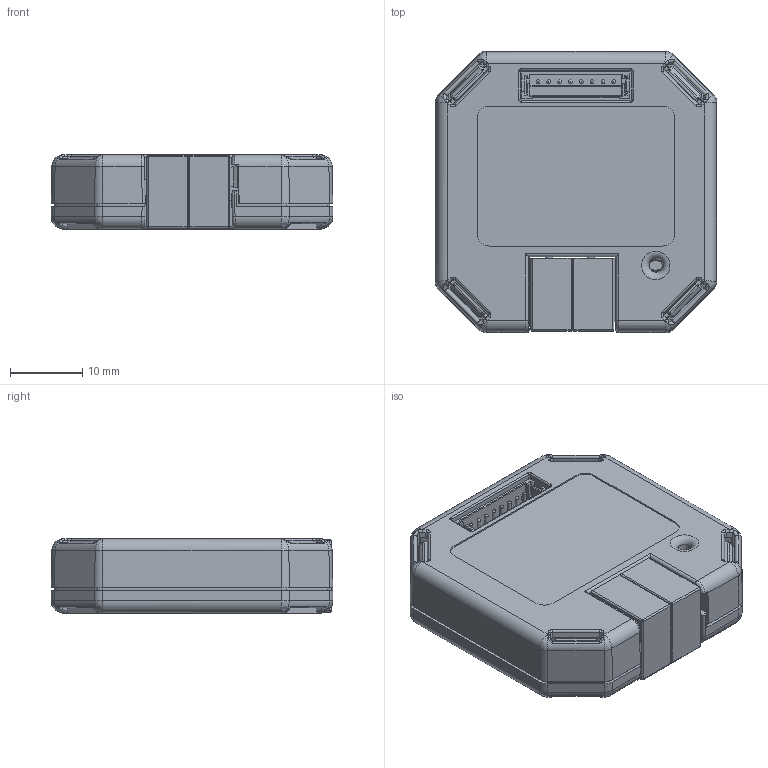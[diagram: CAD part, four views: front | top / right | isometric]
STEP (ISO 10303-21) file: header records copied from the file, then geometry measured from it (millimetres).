
FILE_DESCRIPTION(/* description */ (''),/* implementation_level */ '2;1');
FILE_NAME(/* name */ 'KNX_IO_430_secure.stp',/* time_stamp */ '2025-11-03T08:56:25+01:00',/* author */ (''),/* organization */ (''),/* preprocessor_version */ 'ST-DEVELOPER v17.2',/* originating_system */ 'Autodesk Inventor 2019',/* authorisation */ '');
FILE_SCHEMA (('AUTOMOTIVE_DESIGN { 1 0 10303 214 3 1 1 }'));
Length unit declared in the file: millimetre
Products named in the file (1): KNX_IO_430_secure
Bounding box: 39 x 39 x 10.3 mm (x, y, z)
Volume: 13673.3 mm3; surface area: 6351.2 mm2
Topology: 1 solids, 1 shells, 827 faces, 2177 edges, 1354 vertices
Faces by surface type: plane 478, cylinder 237, bspline 72, sphere 24, cone 13, torus 3
Full cylindrical faces by diameter (mm): 0.42 x1, 0.5 x8, 1 x2, 1.3 x2, 2.092 x1
Entity records: 28845 total; most frequent: CARTESIAN_POINT 7707, ORIENTED_EDGE 4306, DIRECTION 4127, EDGE_CURVE 2153, LINE 1499, VECTOR 1499, VERTEX_POINT 1354, AXIS2_PLACEMENT_3D 1314
